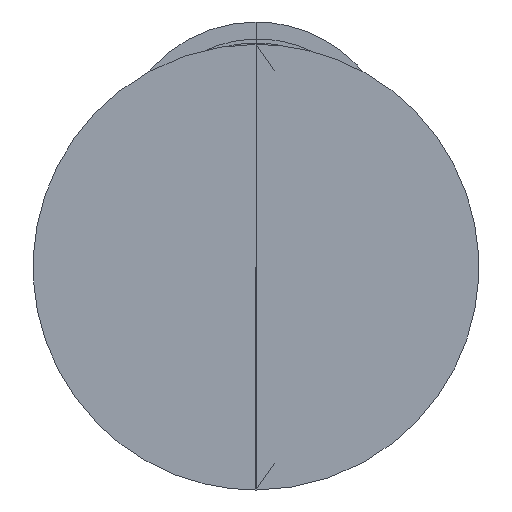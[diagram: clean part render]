
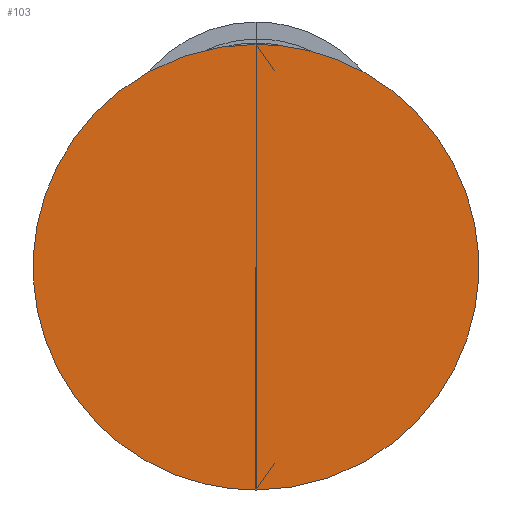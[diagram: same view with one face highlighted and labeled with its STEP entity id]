
A CAD part, top view. The second image highlights one B-rep face of the part: STEP entity #103.
In plain terms, the highlighted planar face has unit normal (0, 0, 1).
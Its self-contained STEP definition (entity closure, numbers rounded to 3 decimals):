
#33=PLANE($,#661);
#103=ADVANCED_FACE($,(#131),#33,.T.);
#131=FACE_OUTER_BOUND($,#159,.T.);
#159=EDGE_LOOP($,(#206,#207));
#206=ORIENTED_EDGE($,*,*,#304,.T.);
#207=ORIENTED_EDGE($,*,*,#305,.T.);
#304=EDGE_CURVE($,#399,#400,#511,.T.);
#305=EDGE_CURVE($,#400,#399,#512,.T.);
#399=VERTEX_POINT($,#1012);
#400=VERTEX_POINT($,#1013);
#511=(
BOUNDED_CURVE()
B_SPLINE_CURVE(2,(#1001,#1002,#1003,#1004,#1005),.UNSPECIFIED.,.F.,.F.)
B_SPLINE_CURVE_WITH_KNOTS((3,2,3),(-17.047,-12.785,-8.523),
.UNSPECIFIED.)
CURVE()
GEOMETRIC_REPRESENTATION_ITEM()
RATIONAL_B_SPLINE_CURVE((1.,0.707,1.,0.707,
1.))
REPRESENTATION_ITEM($)
);
#512=(
BOUNDED_CURVE()
B_SPLINE_CURVE(2,(#1006,#1007,#1008,#1009,#1010),.UNSPECIFIED.,.F.,.F.)
B_SPLINE_CURVE_WITH_KNOTS((3,2,3),(-8.523,-4.262,0.),
.UNSPECIFIED.)
CURVE()
GEOMETRIC_REPRESENTATION_ITEM()
RATIONAL_B_SPLINE_CURVE((1.,0.707,1.,0.707,
1.))
REPRESENTATION_ITEM($)
);
#661=AXIS2_PLACEMENT_3D($,#1011,#675,$);
#675=DIRECTION($,(0.,0.,1.));
#1001=CARTESIAN_POINT($,(0.,156.035,601.608));
#1002=CARTESIAN_POINT($,(-65.819,156.035,601.608));
#1003=CARTESIAN_POINT($,(-65.819,90.217,601.608));
#1004=CARTESIAN_POINT($,(-65.819,24.398,601.608));
#1005=CARTESIAN_POINT($,(0.,24.398,601.608));
#1006=CARTESIAN_POINT($,(0.,24.398,601.608));
#1007=CARTESIAN_POINT($,(65.819,24.398,601.608));
#1008=CARTESIAN_POINT($,(65.819,90.217,601.608));
#1009=CARTESIAN_POINT($,(65.819,156.035,601.608));
#1010=CARTESIAN_POINT($,(0.,156.035,601.608));
#1011=CARTESIAN_POINT($,(-67.135,23.082,601.608));
#1012=CARTESIAN_POINT($,(0.,156.035,601.608));
#1013=CARTESIAN_POINT($,(0.,24.398,601.608));
